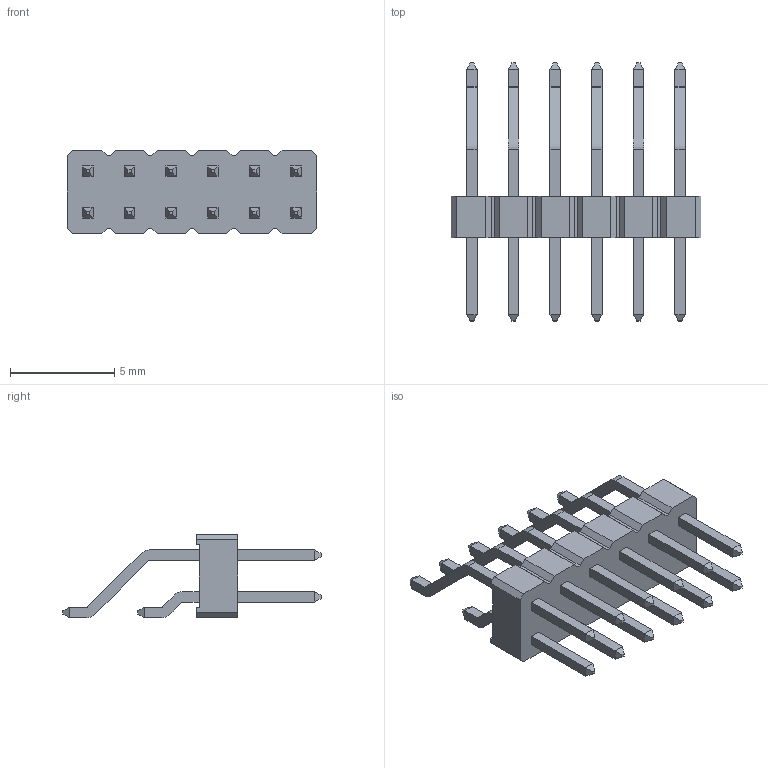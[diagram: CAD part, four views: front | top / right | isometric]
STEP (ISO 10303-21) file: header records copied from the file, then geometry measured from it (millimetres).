
FILE_DESCRIPTION(('Designed by EasyEDA Pro'),'2;1');
FILE_NAME('Open CASCADE Shape Model','2025-10-17T16:52:08',('Author'),( 'Open CASCADE'),'Open CASCADE STEP processor 7.6','Open CASCADE 7.8' ,'Unknown');
FILE_SCHEMA(('AUTOMOTIVE_DESIGN_CC2 { 1 2 10303 214 -1 1 5 4 }'));
Length unit declared in the file: millimetre
Products named in the file (4): PCBModel; 4tNT-U1; HDR-SMD_12P-P2.00-H-M-R2-C6-W12.4-N; SOLID
Assembly tree (3 placements, depth 4):
  PCBModel
    4tNT-U1
      HDR-SMD_12P-P2.00-H-M-R2-C6-W12.4-N
        SOLID
Bounding box: 12 x 12.4 x 4 mm (x, y, z)
Volume: 119.3 mm3; surface area: 384.5 mm2
Topology: 1 solids, 1 shells, 590 faces, 1537 edges, 992 vertices
Faces by surface type: plane 444, bspline 98, cylinder 48
Entity records: 23669 total; most frequent: CARTESIAN_POINT 4429, ORIENTED_EDGE 3078, DIRECTION 2425, EDGE_CURVE 1537, LINE 1241, VECTOR 1241, VERTEX_POINT 992, FACE_BOUND 633
